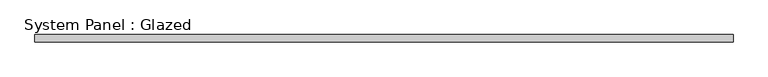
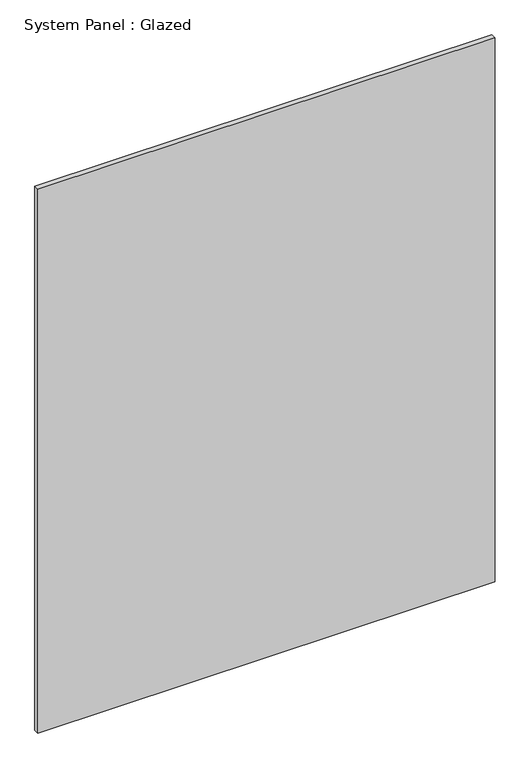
"""IFC4 building model written with IfcOpenShell, lengths in millimetres: plate geometry, System Panel : Glazed."""

from ifc_helpers import new_model, si_unit, origin, origin_with_axes, place, context, project, spatial, polyline, outline, extrude, source, transform, mapped, element, save


def system_panel_glazed_48a96432(model_context):
    return source(origin(), model_context, "Body", "SweptSolid", [
        extrude(outline(polyline([(1187.4499999, -44.45), (-1187.4499999, -44.45), (-1187.4499999, -19.05), (1187.4499999, -19.05), (1187.4499999, -44.45)])), origin_with_axes(), (0.0, 0.0, 1.0), 2984.5),
    ])


if __name__ == "__main__":
    model = new_model("IFC4")
    model_context = context("Model", 3, world=origin())
    ifc_project = project(units=[si_unit("LENGTHUNIT", "METRE", prefix="MILLI")], contexts=[model_context])
    site = spatial("IfcSite", under=ifc_project)
    building = spatial("IfcBuilding", under=site)
    placement = place(None, origin())
    system_panel_glazed_shape = system_panel_glazed_48a96432(model_context)
    element("IfcPlate", 1, ObjectType="System Panel : Glazed", at=placement, inside=building, context=model_context, shape_type="MappedRepresentation", body=[
        mapped(system_panel_glazed_shape, transform((0.0, 0.0, 0.0), x_axis=(1.0, 0.0, 0.0), y_axis=(0.0, 1.0, 0.0), z_axis=(0.0, 0.0, 1.0))),
    ])
    save(model, "model.ifc")
